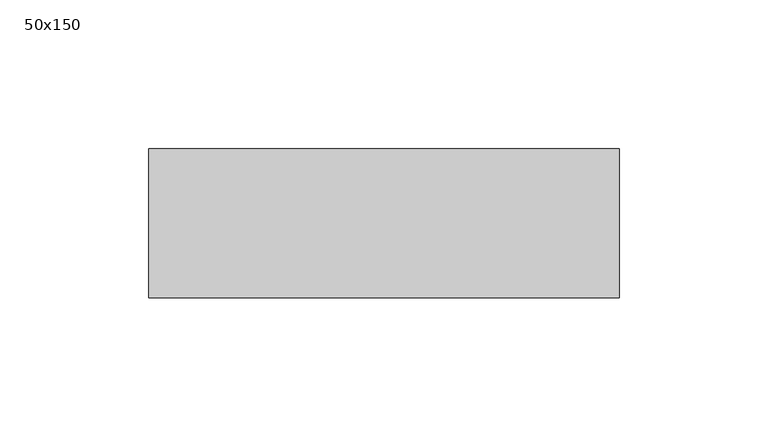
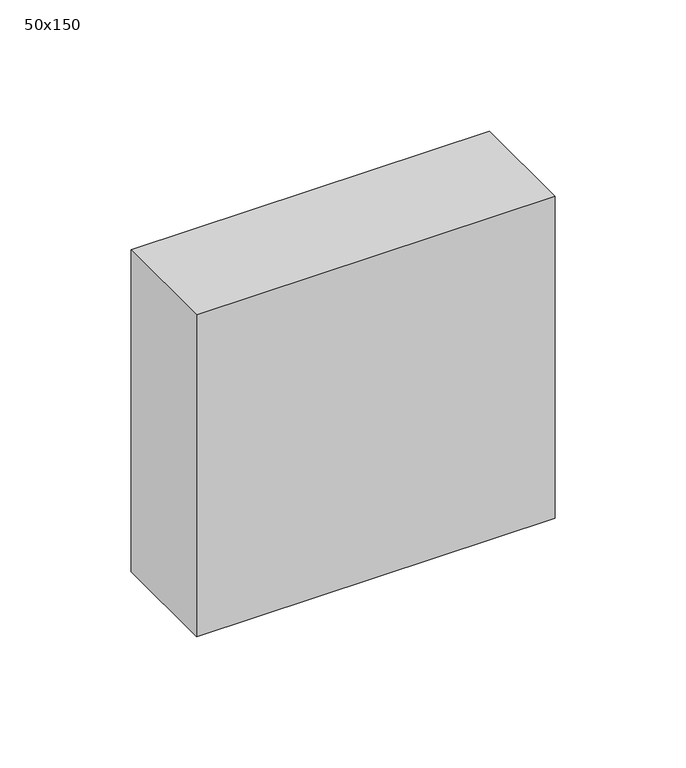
"""IFC4 building model written with IfcOpenShell, lengths in millimetres: beam geometry, Graded Timber : 50x150."""

from ifc_helpers import new_model, si_unit, frame, origin, place, context, project, spatial, polyline, outline, extrude, source, transform, mapped, element, save


def beam_50x150_ea457183(model_context):
    return source(origin(), model_context, "Body", "SweptSolid", [
        extrude(outline(polyline([(38.0012315, 25.0), (38.0012315, -25.0), (-120.0, -25.0), (-120.0, 25.0), (38.0012315, 25.0)])), frame((0.0, 0.0, -75.0), z_axis=(0.0, 0.0, 1.0), x_axis=(1.0, 0.0, 0.0)), (0.0, 0.0, 1.0), 150.0),
    ])


if __name__ == "__main__":
    model = new_model("IFC4")
    model_context = context("Model", 3, world=origin())
    ifc_project = project(units=[si_unit("LENGTHUNIT", "METRE", prefix="MILLI")], contexts=[model_context])
    site = spatial("IfcSite", under=ifc_project)
    building = spatial("IfcBuilding", under=site)
    placement = place(None, origin())
    beam_50x150_shape = beam_50x150_ea457183(model_context)
    element("IfcBeam", 1, ObjectType="Graded Timber : 50x150", at=placement, inside=building, context=model_context, shape_type="MappedRepresentation", body=[
        mapped(beam_50x150_shape, transform((0.0, 0.0, 0.0), x_axis=(1.0, 0.0, 0.0), y_axis=(0.0, 1.0, 0.0), z_axis=(0.0, 0.0, 1.0))),
    ])
    save(model, "model.ifc")
